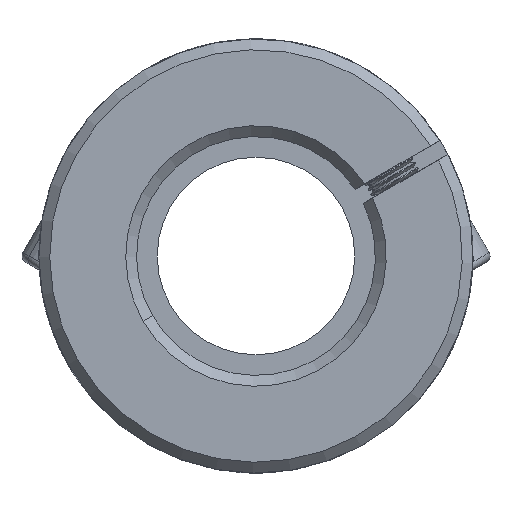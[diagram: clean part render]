
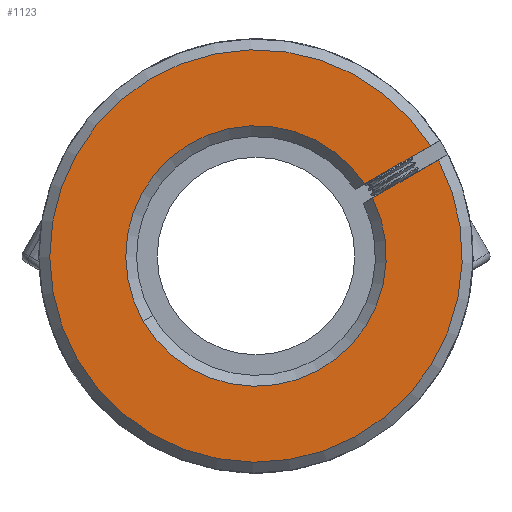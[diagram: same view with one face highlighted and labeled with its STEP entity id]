
A CAD part, front view. The second image highlights one B-rep face of the part: STEP entity #1123.
In plain terms, the highlighted planar face has unit normal (0, -1, 0).
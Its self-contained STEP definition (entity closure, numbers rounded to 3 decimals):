
#271 = ORIENTED_EDGE ( 'NONE', *, *, #6416, .T. ) ;
#315 = LINE ( 'NONE', #1091, #12396 ) ;
#656 = DIRECTION ( 'NONE',  ( 0., 1., 0. ) ) ;
#937 = DIRECTION ( 'NONE',  ( 0.5, 0., -0.866 ) ) ;
#1061 = CARTESIAN_POINT ( 'NONE',  ( 52.98, -31.239, 45.743 ) ) ;
#1091 = CARTESIAN_POINT ( 'NONE',  ( 8.431, -31.239, 44.841 ) ) ;
#1123 = ADVANCED_FACE ( 'NONE', ( #3782 ), #6380, .F. ) ;
#1280 = VERTEX_POINT ( 'NONE', #13091 ) ;
#1858 = AXIS2_PLACEMENT_3D ( 'NONE', #11364, #656, #9239 ) ;
#2524 = VECTOR ( 'NONE', #3352, 1000. ) ;
#3189 = VERTEX_POINT ( 'NONE', #10670 ) ;
#3270 = DIRECTION ( 'NONE',  ( 0.866, 0., 0.5 ) ) ;
#3352 = DIRECTION ( 'NONE',  ( -0.866, 0., -0.5 ) ) ;
#3562 = AXIS2_PLACEMENT_3D ( 'NONE', #1061, #7512, #8607 ) ;
#3782 = FACE_OUTER_BOUND ( 'NONE', #12675, .T. ) ;
#4249 = CIRCLE ( 'NONE', #13692, 19. ) ;
#4537 = DIRECTION ( 'NONE',  ( 0.5, 0., -0.866 ) ) ;
#5393 = CARTESIAN_POINT ( 'NONE',  ( 7.68, -31.239, 46.14 ) ) ;
#6030 = DIRECTION ( 'NONE',  ( 0., -1., 0. ) ) ;
#6126 = CIRCLE ( 'NONE', #1858, 12. ) ;
#6380 = PLANE ( 'NONE',  #3562 ) ;
#6416 = EDGE_CURVE ( 'NONE', #1280, #3189, #10125, .T. ) ;
#6981 = ORIENTED_EDGE ( 'NONE', *, *, #7194, .T. ) ;
#7194 = EDGE_CURVE ( 'NONE', #7725, #13626, #4249, .T. ) ;
#7512 = DIRECTION ( 'NONE',  ( 0., 1., 0. ) ) ;
#7584 = VERTEX_POINT ( 'NONE', #10216 ) ;
#7725 = VERTEX_POINT ( 'NONE', #10495 ) ;
#8415 = EDGE_CURVE ( 'NONE', #1280, #13626, #315, .T. ) ;
#8607 = DIRECTION ( 'NONE',  ( 0.5, 0., -0.866 ) ) ;
#8772 = EDGE_CURVE ( 'NONE', #3189, #7584, #6126, .T. ) ;
#9239 = DIRECTION ( 'NONE',  ( 0.5, 0., -0.866 ) ) ;
#9882 = CARTESIAN_POINT ( 'NONE',  ( -1.447, -31.239, 40. ) ) ;
#10125 = CIRCLE ( 'NONE', #10899, 12. ) ;
#10216 = CARTESIAN_POINT ( 'NONE',  ( 8.548, -31.239, 46.641 ) ) ;
#10495 = CARTESIAN_POINT ( 'NONE',  ( 14.616, -31.239, 50.147 ) ) ;
#10670 = CARTESIAN_POINT ( 'NONE',  ( -11.837, -31.239, 33.997 ) ) ;
#10899 = AXIS2_PLACEMENT_3D ( 'NONE', #9882, #10946, #4537 ) ;
#10946 = DIRECTION ( 'NONE',  ( 0., 1., 0. ) ) ;
#11364 = CARTESIAN_POINT ( 'NONE',  ( -1.447, -31.239, 40. ) ) ;
#11571 = ORIENTED_EDGE ( 'NONE', *, *, #8772, .T. ) ;
#11595 = LINE ( 'NONE', #5393, #2524 ) ;
#12030 = ORIENTED_EDGE ( 'NONE', *, *, #8415, .F. ) ;
#12352 = CARTESIAN_POINT ( 'NONE',  ( 15.367, -31.239, 48.848 ) ) ;
#12396 = VECTOR ( 'NONE', #3270, 1000. ) ;
#12675 = EDGE_LOOP ( 'NONE', ( #12030, #271, #11571, #13696, #6981 ) ) ;
#13091 = CARTESIAN_POINT ( 'NONE',  ( 9.298, -31.239, 45.342 ) ) ;
#13330 = EDGE_CURVE ( 'NONE', #7725, #7584, #11595, .T. ) ;
#13626 = VERTEX_POINT ( 'NONE', #12352 ) ;
#13672 = CARTESIAN_POINT ( 'NONE',  ( -1.447, -31.239, 40. ) ) ;
#13692 = AXIS2_PLACEMENT_3D ( 'NONE', #13672, #6030, #937 ) ;
#13696 = ORIENTED_EDGE ( 'NONE', *, *, #13330, .F. ) ;
